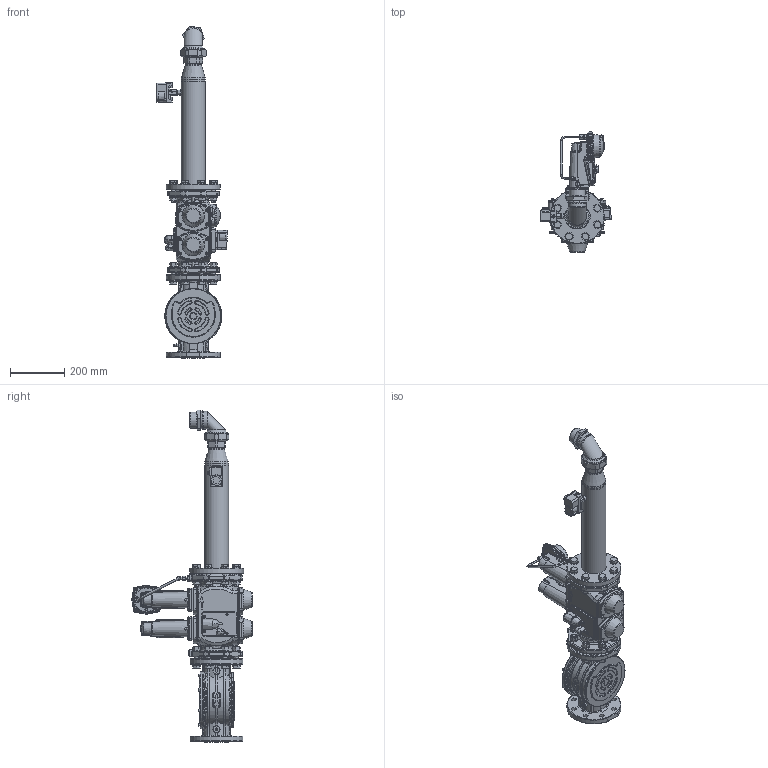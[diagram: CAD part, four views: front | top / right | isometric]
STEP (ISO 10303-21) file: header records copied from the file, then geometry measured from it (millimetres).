
FILE_DESCRIPTION (( 'STEP AP214' ), '1' );
FILE_NAME ('19990753.STEP', '2025-02-14T07:16:08', ( '' ), ( '' ), 'SwSTEP 2.0', 'SolidWorks 2021', '' );
FILE_SCHEMA (( 'AUTOMOTIVE_DESIGN' ));
Length unit declared in the file: millimetre
Products named in the file (1): 19990753
Bounding box: 259.2 x 444.8 x 1228.85 mm (x, y, z)
Surface area: 1785384.7 mm2 (no closed solid volume)
Topology: 0 solids, 121 shells, 8389 faces, 20413 edges, 12498 vertices
Faces by surface type: cylinder 2464, plane 2299, bspline 2293, cone 685, torus 554, sphere 94
Full cylindrical faces by diameter (mm): 1.5 x2, 2 x2, 3 x1, 3.1 x1, 4 x5, 4.3 x12, 4.8 x1, 5 x25, 5.188 x2, 5.3 x6, 5.5 x4, 5.795 x1, 5.9 x1, 6 x7, 6.2 x1, 6.4 x4, 6.5 x9, 8 x20, 8.5 x5, 9 x13, 9.5 x1, 9.728 x1, 10 x34, 10.6 x1, 11.3 x1, 11.5 x1, 11.55 x1, 11.8 x2, 12 x3, 12.5 x2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
Entity records: 469434 total; most frequent: CARTESIAN_POINT 207990, ORIENTED_EDGE 37648, DIRECTION 28957, EDGE_CURVE 18834, VERTEX_POINT 12045, AXIS2_PLACEMENT_3D 11482, EDGE_LOOP 10044, FACE_OUTER_BOUND 9133
